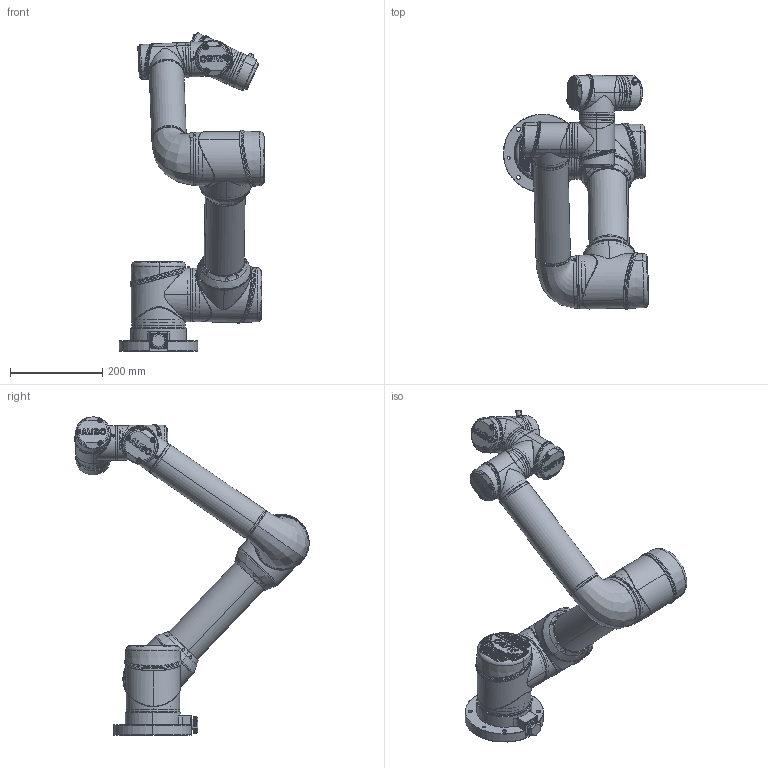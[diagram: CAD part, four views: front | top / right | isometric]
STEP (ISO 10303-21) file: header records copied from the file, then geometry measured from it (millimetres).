
FILE_DESCRIPTION (( 'STEP AP214' ), '1' );
FILE_NAME ('aubo-i5-6_12.STEP', '2018-06-02T09:32:01', ( 'admin' ), ( 'Microsoft' ), 'SwSTEP 2.0', 'SolidWorks 2014', '' );
FILE_SCHEMA (( 'AUTOMOTIVE_DESIGN' ));
Length unit declared in the file: millimetre
Products named in the file (12): 100_1_1; i5菁釱-III_1_1; aubo-i5-6_12; Group7^i3潠趙耀倰_1; PLUG_1; hexagon socket head cap screws gb3_GB_FASTENER_SCREWS_HSHCS M3X5-N_1; 1_GB_FASTENER_SCREWS_HSCHS M4X12-N_1_1; 123_2_1; 80_cover1; 80_1_1; 70_1_1; 60_1_1
Assembly tree (45 placements, depth 2):
  aubo-i5-6_12
    i5菁釱-III_1_1
    100_1_1
    60_1_1  x3
    70_1_1
    80_1_1  x3
    80_cover1  x3
    123_2_1  x3
    1_GB_FASTENER_SCREWS_HSCHS M4X12-N_1_1  x12
    hexagon socket head cap screws gb3_GB_FASTENER_SCREWS_HSHCS M3X5-N_1  x16
    PLUG_1
    Group7^i3潠趙耀倰_1
Bounding box: 315.26 x 509 x 690.51 mm (x, y, z)
Volume: 9460960.8 mm3; surface area: 1011065.8 mm2
Topology: 45 solids, 53 shells, 3616 faces, 9031 edges, 5657 vertices
Faces by surface type: plane 1295, cylinder 1029, bspline 667, torus 315, cone 292, sphere 18
Entity records: 95090 total; most frequent: CARTESIAN_POINT 45103, ORIENTED_EDGE 7284, DIRECTION 6557, EDGE_CURVE 3642, AXIS2_PLACEMENT_3D 2490, VERTEX_POINT 2315, EDGE_LOOP 1605, LINE 1577
